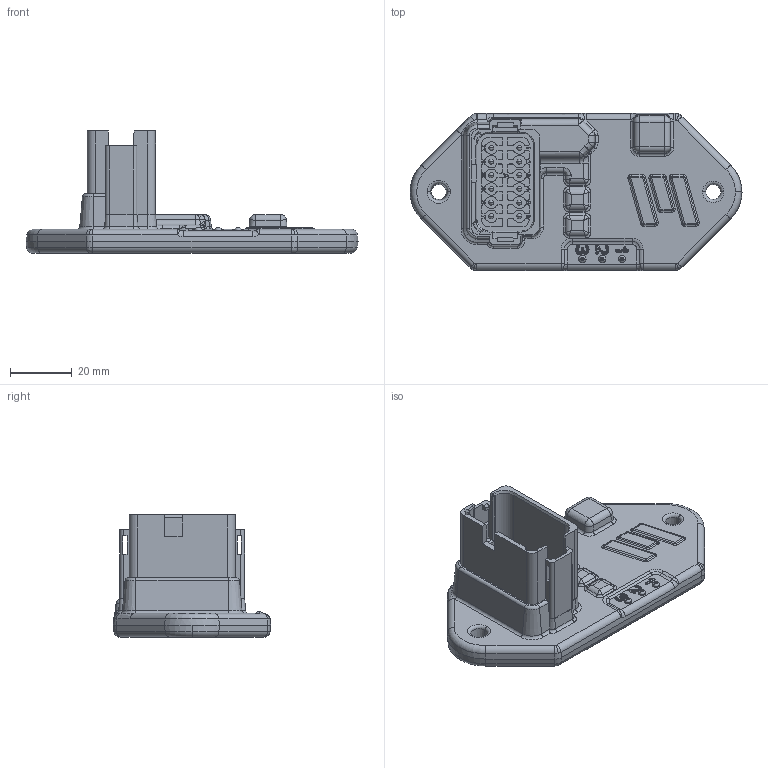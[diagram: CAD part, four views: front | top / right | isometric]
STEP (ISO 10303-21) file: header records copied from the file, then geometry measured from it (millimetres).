
FILE_DESCRIPTION (( 'STEP AP214' ), '1' );
FILE_NAME ('505611_Overmolded.STEP', '2025-06-05T16:53:13', ( '' ), ( '' ), 'SwSTEP 2.0', 'SolidWorks 2025', '' );
FILE_SCHEMA (( 'AUTOMOTIVE_DESIGN' ));
Length unit declared in the file: millimetre
Products named in the file (3): Overmold; 505611_Overmolded; 018482bx
Assembly tree (2 placements, depth 2):
  505611_Overmolded
    018482bx
    Overmold
Bounding box: 107.56 x 50.99 x 39.59 mm (x, y, z)
Volume: 48175.3 mm3; surface area: 41383.4 mm2
Topology: 3 solids, 6 shells, 9841 faces, 25653 edges, 15241 vertices
Faces by surface type: plane 4970, cylinder 2997, bspline 901, sphere 704, cone 198, torus 71
Entity records: 323063 total; most frequent: CARTESIAN_POINT 90633, ORIENTED_EDGE 49698, DIRECTION 46214, EDGE_CURVE 24849, LINE 16354, VECTOR 16354, VERTEX_POINT 15241, AXIS2_PLACEMENT_3D 14930
